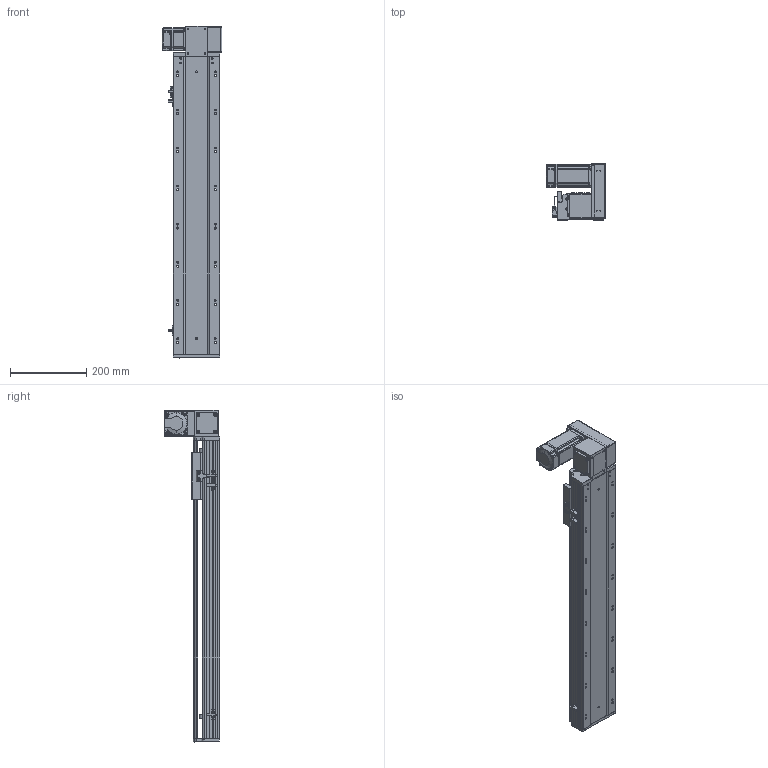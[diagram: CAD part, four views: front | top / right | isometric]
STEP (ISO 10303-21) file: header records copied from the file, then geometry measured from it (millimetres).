
FILE_DESCRIPTION (( 'STEP AP203' ), '1' );
FILE_NAME ('RY120-T-300-UR.SLDASM_550.step', '2021-03-01T05:55:53', ( '盈信电脑' ), ( '东莞市道滘镇水果街19号' ), 'SwSTEP 2.0', 'SolidWorks 2012', '' );
FILE_SCHEMA (( 'CONFIG_CONTROL_DESIGN' ));
Length unit declared in the file: millimetre
Products named in the file (17): RY120-T主同步轮轴承压盖; RY120-T-300-UR.SLDASM_550; RY120-T萇儂欶; RY120-T蹟翐M4; RY120-T翋肮祭謫裔啣; 15; RY120-T肮祭湍揤踡輸2; RY120-T萇儂假蚾啣; 滅袉蝶18-10; RY120-T翋肮祭盓傅釱; RY120-T肮祭湍揤踡輸1; RY120外置感应片(140共用）; 覜茼ん672; RY120綴裔啣; RY120-T-300-UR倰第奻裔啣_550; RY120-T-300-UR倰第菁釱_550; RY120肮祭湍臏賑輸
Assembly tree (22 placements, depth 2):
  RY120-T-300-UR.SLDASM_550
    RY120-T-300-UR倰第菁釱_550
    RY120-T-300-UR倰第奻裔啣_550
    RY120肮祭湍臏賑輸
    RY120綴裔啣
    覜茼ん672  x3
    RY120外置感应片(140共用）
    RY120-T肮祭湍揤踡輸1
    RY120-T肮祭湍揤踡輸2
    RY120-T翋肮祭盓傅釱
    RY120-T萇儂假蚾啣
    滅袉蝶18-10  x2
    RY120-T翋肮祭謫裔啣
    15
    RY120-T蹟翐M4  x4
    RY120-T萇儂欶
    RY120-T主同步轮轴承压盖
Bounding box: 155.5 x 146 x 871 mm (x, y, z)
Volume: 2627552.6 mm3; surface area: 961200.6 mm2
Topology: 23 solids, 23 shells, 2802 faces, 7664 edges, 4936 vertices
Faces by surface type: plane 1426, cylinder 1064, cone 223, bspline 89
Entity records: 89835 total; most frequent: CARTESIAN_POINT 23170, ORIENTED_EDGE 13808, DIRECTION 12958, EDGE_CURVE 6904, VERTEX_POINT 4523, AXIS2_PLACEMENT_3D 4327, VECTOR 4304, LINE 4304
